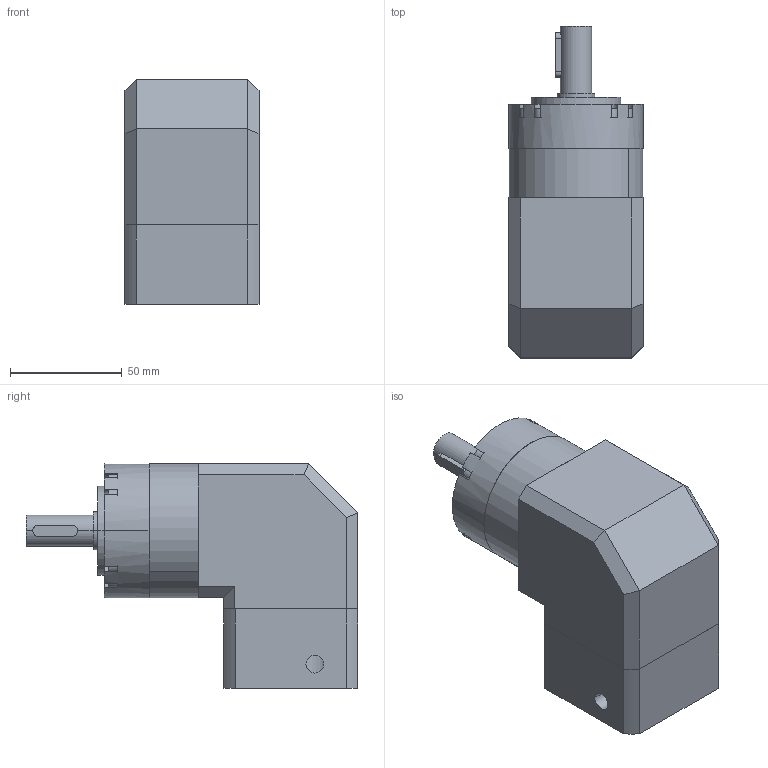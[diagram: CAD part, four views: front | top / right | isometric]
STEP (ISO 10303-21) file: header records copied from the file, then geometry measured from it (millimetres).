
FILE_DESCRIPTION (( 'STEP AP214' ), '1' );
FILE_NAME ('PVLN60-L1.STEP', '2019-08-13T00:44:11', ( '微软用户' ), ( '微软中国' ), 'SwSTEP 2.0', 'SolidWorks 2014', '' );
FILE_SCHEMA (( 'AUTOMOTIVE_DESIGN' ));
Length unit declared in the file: millimetre
Products named in the file (9): 囀鞠褒蹟佪-M5℅16; PVFN60-蟀諉啣; 双列角接触球轴承 5203_2; PRL60 奻屳唳; PVFN60-薊粣; PRFN60 κｳﾝﾈｦ_ﾒｻｼｶﾄﾚｳﾝﾈｦ; PVLN60-L1; PVFN60-眊极; 邧埴瑩  5x5x20
Assembly tree (8 placements, depth 2):
  PVLN60-L1
    PRL60 奻屳唳
    PVFN60-薊粣
    双列角接触球轴承 5203_2
    PVFN60-蟀諉啣
    囀鞠褒蹟佪-M5℅16
    邧埴瑩  5x5x20
    PVFN60-眊极
    PRFN60 κｳﾝﾈｦ_ﾒｻｼｶﾄﾚｳﾝﾈｦ
Bounding box: 60 x 148.5 x 100.5 mm (x, y, z)
Volume: 467566.5 mm3; surface area: 96358.1 mm2
Topology: 8 solids, 8 shells, 516 faces, 1582 edges, 1032 vertices
Faces by surface type: cylinder 187, plane 173, torus 84, sphere 40, cone 32
Entity records: 19206 total; most frequent: CARTESIAN_POINT 5088, ORIENTED_EDGE 2872, DIRECTION 2840, EDGE_CURVE 1436, AXIS2_PLACEMENT_3D 1170, VERTEX_POINT 952, CIRCLE 643, EDGE_LOOP 592
